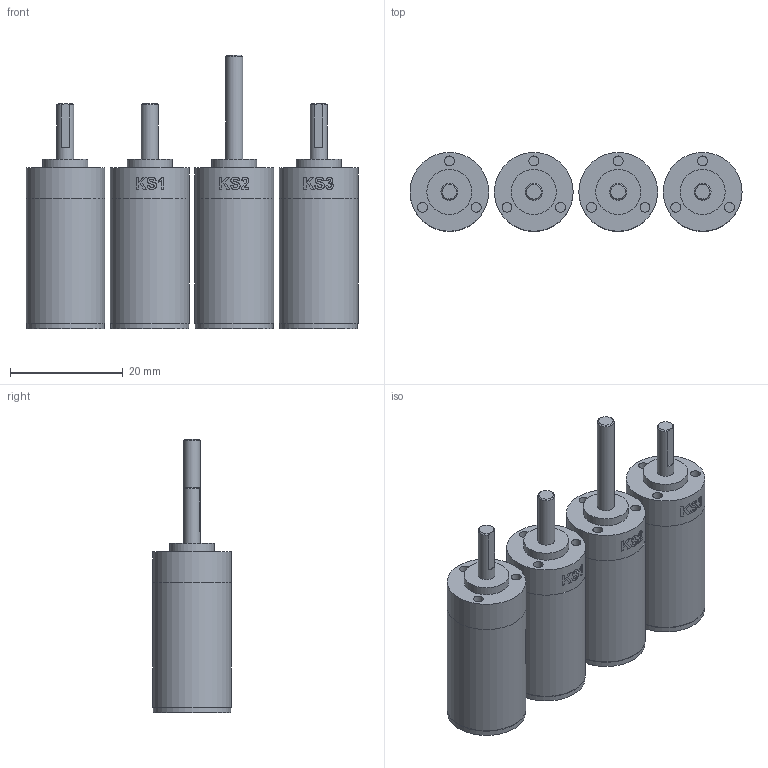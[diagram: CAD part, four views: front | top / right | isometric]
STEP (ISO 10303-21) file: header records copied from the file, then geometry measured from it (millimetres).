
FILE_DESCRIPTION(/* description */ (''),/* implementation_level */ '2;1');
FILE_NAME(/* name */ '14GPT-4stage_standard+KSx.stp',/* time_stamp */ '2024-10-30T09:09:10+01:00',/* author */ ('DR. FRITZ FAULHABER GmbH & Co. KG'),/* organization */ ('DR. FRITZ FAULHABER GmbH & Co. KG'),/* preprocessor_version */ 'ST-DEVELOPER v19.3',/* originating_system */ 'SIEMENS PLM Software NX2212.4000',/* authorisation */ '');
FILE_SCHEMA (('AUTOMOTIVE_DESIGN { 1 0 10303 214 3 1 1 1 }'));
Length unit declared in the file: millimetre
Products named in the file (1): A_objects
Bounding box: 59 x 14 x 48.6 mm (x, y, z)
Volume: 17063.7 mm3; surface area: 7528.4 mm2
Topology: 4 solids, 4 shells, 196 faces, 404 edges, 273 vertices
Faces by surface type: plane 91, cylinder 61, bspline 39, cone 5
Full cylindrical faces by diameter (mm): 1.75 x12, 2.651 x4, 3 x4, 8 x4, 9 x4, 12.8 x4, 13.4 x4, 13.8 x4, 13.999 x4, 14 x8
Entity records: 8734 total; most frequent: CARTESIAN_POINT 4603, ORIENTED_EDGE 664, DIRECTION 613, EDGE_CURVE 332, EDGE_LOOP 307, AXIS2_PLACEMENT_3D 287, VERTEX_POINT 255, FACE_BOUND 201
